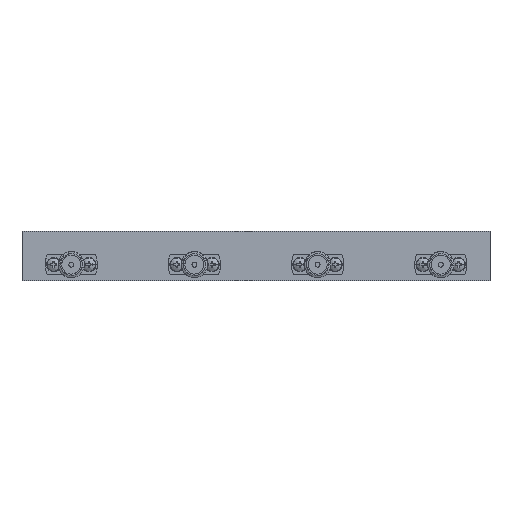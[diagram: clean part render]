
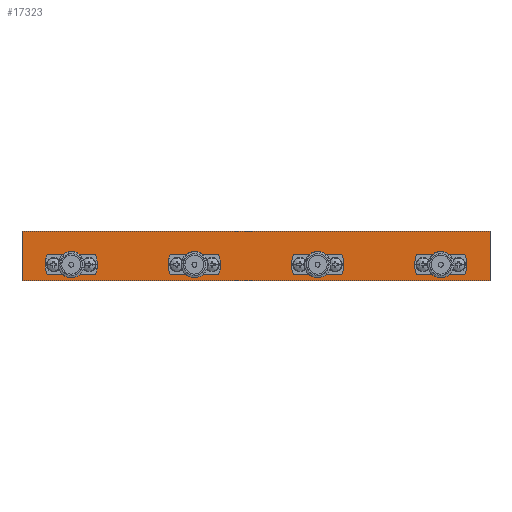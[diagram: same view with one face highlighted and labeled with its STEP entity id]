
A CAD part, left-side view. The second image highlights one B-rep face of the part: STEP entity #17323.
In plain terms, the highlighted planar face has unit normal (-1, 0, 0).
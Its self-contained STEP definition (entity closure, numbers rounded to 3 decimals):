
#162 = VERTEX_POINT ( 'NONE', #94601 ) ;
#1383 = DIRECTION ( 'NONE',  ( -1., 0., 0. ) ) ;
#1691 = EDGE_CURVE ( 'NONE', #63552, #16868, #92461, .T. ) ;
#3013 = DIRECTION ( 'NONE',  ( -1., 0., 0. ) ) ;
#3917 = ORIENTED_EDGE ( 'NONE', *, *, #7020, .F. ) ;
#5036 = DIRECTION ( 'NONE',  ( 0., -1., 0. ) ) ;
#5426 = VERTEX_POINT ( 'NONE', #73424 ) ;
#5774 = CIRCLE ( 'NONE', #72178, 2.4 ) ;
#6397 = ORIENTED_EDGE ( 'NONE', *, *, #20942, .F. ) ;
#7020 = EDGE_CURVE ( 'NONE', #78567, #38621, #68086, .T. ) ;
#7373 = CARTESIAN_POINT ( 'NONE',  ( 0., 0., 12. ) ) ;
#7998 = DIRECTION ( 'NONE',  ( 0., 0., -1. ) ) ;
#9461 = CARTESIAN_POINT ( 'NONE',  ( 0., -72., 3.9 ) ) ;
#12204 = CARTESIAN_POINT ( 'NONE',  ( 0., -44.4, 3.9 ) ) ;
#12338 = CARTESIAN_POINT ( 'NONE',  ( 0., 0., 0. ) ) ;
#12481 = PLANE ( 'NONE',  #81364 ) ;
#12520 = EDGE_CURVE ( 'NONE', #65339, #89844, #94811, .T. ) ;
#13479 = LINE ( 'NONE', #7373, #30082 ) ;
#14258 = VERTEX_POINT ( 'NONE', #85680 ) ;
#15147 = FACE_BOUND ( 'NONE', #97706, .T. ) ;
#16868 = VERTEX_POINT ( 'NONE', #64626 ) ;
#17323 = ADVANCED_FACE ( 'NONE', ( #15147, #97528, #57534, #95154, #92789 ), #12481, .F. ) ;
#17627 = ORIENTED_EDGE ( 'NONE', *, *, #47854, .F. ) ;
#19250 = DIRECTION ( 'NONE',  ( 0., -1., 0. ) ) ;
#19766 = CARTESIAN_POINT ( 'NONE',  ( 0., 0., 12. ) ) ;
#20430 = ORIENTED_EDGE ( 'NONE', *, *, #42968, .F. ) ;
#20942 = EDGE_CURVE ( 'NONE', #16868, #63552, #63476, .T. ) ;
#21812 = CIRCLE ( 'NONE', #84979, 2.4 ) ;
#23676 = CARTESIAN_POINT ( 'NONE',  ( 0., -42., 3.9 ) ) ;
#23734 = DIRECTION ( 'NONE',  ( -1., 0., 0. ) ) ;
#25425 = AXIS2_PLACEMENT_3D ( 'NONE', #84214, #92086, #77040 ) ;
#25852 = EDGE_LOOP ( 'NONE', ( #50421, #3917, #89397, #70986 ) ) ;
#28082 = CARTESIAN_POINT ( 'NONE',  ( 0., 0., 12. ) ) ;
#28862 = ORIENTED_EDGE ( 'NONE', *, *, #33343, .F. ) ;
#29754 = CIRCLE ( 'NONE', #46219, 2.4 ) ;
#30082 = VECTOR ( 'NONE', #89660, 1000. ) ;
#30241 = DIRECTION ( 'NONE',  ( 0., -1., 0. ) ) ;
#31561 = CARTESIAN_POINT ( 'NONE',  ( 0., -9.6, 3.9 ) ) ;
#33343 = EDGE_CURVE ( 'NONE', #51764, #14258, #5774, .T. ) ;
#33389 = DIRECTION ( 'NONE',  ( -1., 0., 0. ) ) ;
#34201 = CARTESIAN_POINT ( 'NONE',  ( 0., -14.4, 3.9 ) ) ;
#35132 = AXIS2_PLACEMENT_3D ( 'NONE', #56722, #33389, #93518 ) ;
#38621 = VERTEX_POINT ( 'NONE', #44591 ) ;
#39774 = ORIENTED_EDGE ( 'NONE', *, *, #91776, .F. ) ;
#39881 = EDGE_LOOP ( 'NONE', ( #20430, #79102 ) ) ;
#39905 = DIRECTION ( 'NONE',  ( 0., -1., 0. ) ) ;
#42913 = CARTESIAN_POINT ( 'NONE',  ( 0., -69.6, 3.9 ) ) ;
#42968 = EDGE_CURVE ( 'NONE', #162, #5426, #84932, .T. ) ;
#44300 = DIRECTION ( 'NONE',  ( 0., 0., -1. ) ) ;
#44591 = CARTESIAN_POINT ( 'NONE',  ( 0., -114., 0. ) ) ;
#44637 = VERTEX_POINT ( 'NONE', #28082 ) ;
#45123 = VERTEX_POINT ( 'NONE', #97587 ) ;
#45283 = DIRECTION ( 'NONE',  ( -1., 0., 0. ) ) ;
#46219 = AXIS2_PLACEMENT_3D ( 'NONE', #69586, #1383, #39905 ) ;
#47854 = EDGE_CURVE ( 'NONE', #14258, #51764, #21812, .T. ) ;
#48044 = LINE ( 'NONE', #81798, #88090 ) ;
#50421 = ORIENTED_EDGE ( 'NONE', *, *, #51842, .T. ) ;
#50593 = EDGE_CURVE ( 'NONE', #5426, #162, #29754, .T. ) ;
#50945 = DIRECTION ( 'NONE',  ( 1., 0., 0. ) ) ;
#51764 = VERTEX_POINT ( 'NONE', #42913 ) ;
#51842 = EDGE_CURVE ( 'NONE', #45123, #38621, #76556, .T. ) ;
#53593 = CARTESIAN_POINT ( 'NONE',  ( 0., -114., 12. ) ) ;
#53879 = VECTOR ( 'NONE', #7998, 1000. ) ;
#56722 = CARTESIAN_POINT ( 'NONE',  ( 0., -12., 3.9 ) ) ;
#57072 = EDGE_CURVE ( 'NONE', #44637, #45123, #48044, .T. ) ;
#57526 = EDGE_LOOP ( 'NONE', ( #39774, #91441 ) ) ;
#57534 = FACE_BOUND ( 'NONE', #39881, .T. ) ;
#63476 = CIRCLE ( 'NONE', #81069, 2.4 ) ;
#63552 = VERTEX_POINT ( 'NONE', #12204 ) ;
#64183 = EDGE_LOOP ( 'NONE', ( #17627, #28862 ) ) ;
#64297 = CARTESIAN_POINT ( 'NONE',  ( 0., -42., 3.9 ) ) ;
#64626 = CARTESIAN_POINT ( 'NONE',  ( 0., -39.6, 3.9 ) ) ;
#65339 = VERTEX_POINT ( 'NONE', #31561 ) ;
#67694 = CARTESIAN_POINT ( 'NONE',  ( 0., -72., 3.9 ) ) ;
#68086 = LINE ( 'NONE', #75846, #53879 ) ;
#69586 = CARTESIAN_POINT ( 'NONE',  ( 0., -102., 3.9 ) ) ;
#69818 = CIRCLE ( 'NONE', #35132, 2.4 ) ;
#70986 = ORIENTED_EDGE ( 'NONE', *, *, #57072, .T. ) ;
#72178 = AXIS2_PLACEMENT_3D ( 'NONE', #67694, #45283, #30241 ) ;
#72346 = AXIS2_PLACEMENT_3D ( 'NONE', #90092, #97673, #89131 ) ;
#73195 = AXIS2_PLACEMENT_3D ( 'NONE', #64297, #3013, #19250 ) ;
#73424 = CARTESIAN_POINT ( 'NONE',  ( 0., -99.6, 3.9 ) ) ;
#73592 = DIRECTION ( 'NONE',  ( 0., -1., 0. ) ) ;
#75449 = ORIENTED_EDGE ( 'NONE', *, *, #1691, .F. ) ;
#75846 = CARTESIAN_POINT ( 'NONE',  ( 0., -114., 12. ) ) ;
#76556 = LINE ( 'NONE', #12338, #84727 ) ;
#77040 = DIRECTION ( 'NONE',  ( 0., -1., 0. ) ) ;
#78567 = VERTEX_POINT ( 'NONE', #53593 ) ;
#79102 = ORIENTED_EDGE ( 'NONE', *, *, #50593, .F. ) ;
#81069 = AXIS2_PLACEMENT_3D ( 'NONE', #23676, #89684, #73592 ) ;
#81364 = AXIS2_PLACEMENT_3D ( 'NONE', #19766, #50945, #94706 ) ;
#81798 = CARTESIAN_POINT ( 'NONE',  ( 0., 0., 12. ) ) ;
#83899 = EDGE_CURVE ( 'NONE', #44637, #78567, #13479, .T. ) ;
#84214 = CARTESIAN_POINT ( 'NONE',  ( 0., -102., 3.9 ) ) ;
#84727 = VECTOR ( 'NONE', #5036, 1000. ) ;
#84932 = CIRCLE ( 'NONE', #25425, 2.4 ) ;
#84979 = AXIS2_PLACEMENT_3D ( 'NONE', #9461, #23734, #91069 ) ;
#85680 = CARTESIAN_POINT ( 'NONE',  ( 0., -74.4, 3.9 ) ) ;
#88090 = VECTOR ( 'NONE', #44300, 1000. ) ;
#89131 = DIRECTION ( 'NONE',  ( 0., -1., 0. ) ) ;
#89397 = ORIENTED_EDGE ( 'NONE', *, *, #83899, .F. ) ;
#89660 = DIRECTION ( 'NONE',  ( 0., -1., 0. ) ) ;
#89684 = DIRECTION ( 'NONE',  ( -1., 0., 0. ) ) ;
#89844 = VERTEX_POINT ( 'NONE', #34201 ) ;
#90092 = CARTESIAN_POINT ( 'NONE',  ( 0., -12., 3.9 ) ) ;
#91069 = DIRECTION ( 'NONE',  ( 0., -1., 0. ) ) ;
#91441 = ORIENTED_EDGE ( 'NONE', *, *, #12520, .F. ) ;
#91776 = EDGE_CURVE ( 'NONE', #89844, #65339, #69818, .T. ) ;
#92086 = DIRECTION ( 'NONE',  ( -1., 0., 0. ) ) ;
#92461 = CIRCLE ( 'NONE', #73195, 2.4 ) ;
#92789 = FACE_OUTER_BOUND ( 'NONE', #25852, .T. ) ;
#93518 = DIRECTION ( 'NONE',  ( 0., -1., 0. ) ) ;
#94601 = CARTESIAN_POINT ( 'NONE',  ( 0., -104.4, 3.9 ) ) ;
#94706 = DIRECTION ( 'NONE',  ( 0., 1., 0. ) ) ;
#94811 = CIRCLE ( 'NONE', #72346, 2.4 ) ;
#95154 = FACE_BOUND ( 'NONE', #57526, .T. ) ;
#97528 = FACE_BOUND ( 'NONE', #64183, .T. ) ;
#97587 = CARTESIAN_POINT ( 'NONE',  ( 0., 0., 0. ) ) ;
#97673 = DIRECTION ( 'NONE',  ( -1., 0., 0. ) ) ;
#97706 = EDGE_LOOP ( 'NONE', ( #75449, #6397 ) ) ;
